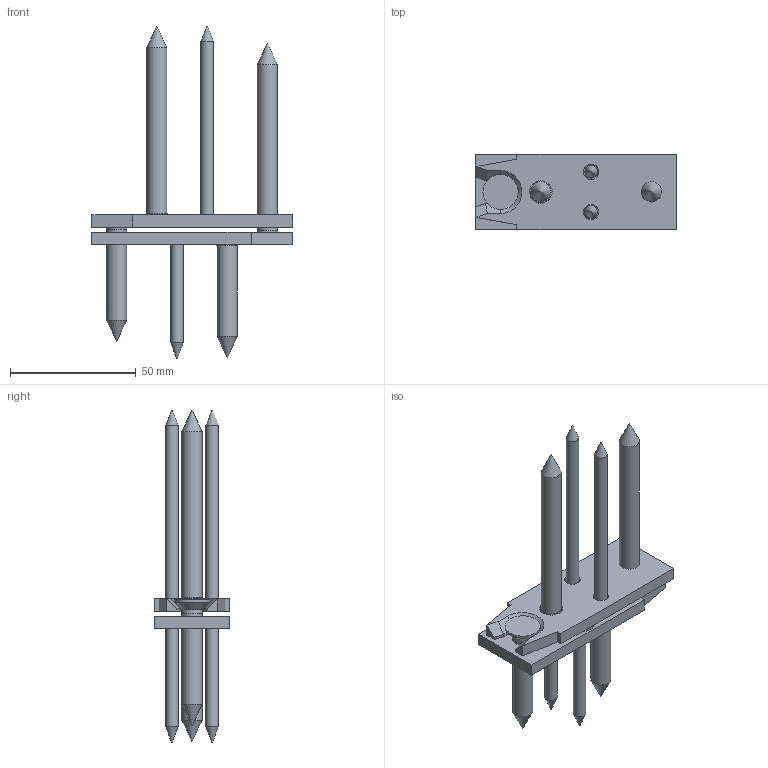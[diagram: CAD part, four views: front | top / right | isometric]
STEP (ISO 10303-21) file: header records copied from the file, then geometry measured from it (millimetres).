
FILE_DESCRIPTION(/* description */ ('Unknown'),/* implementation_level */ '2;1');
FILE_NAME(/* name */ 'RICON Edelstahl_80x30_EA',/* time_stamp */ '2022-02-07T15:51:52+01:00',/* author */ ('Unknown'),/* organization */ ('Unknown'),/* preprocessor_version */ 'ST-DEVELOPER v16.7',/* originating_system */ 'Solid Edge',/* authorisation */ 'Unknown');
FILE_SCHEMA (('AUTOMOTIVE_DESIGN {1 0 10303 214 3 1 1}'));
Length unit declared in the file: millimetre
Products named in the file (6): RICON_30x80_zusammenbau_mit Fase; RICON_30x80_mit Fase; SK_Schraube_5x50; SK_Schraube_8x50; SK_Schraube_5x80; SK_Schraube_8x80
Assembly tree (10 placements, depth 2):
  RICON_30x80_zusammenbau_mit Fase
    RICON_30x80_mit Fase  x2
    SK_Schraube_5x50  x2
    SK_Schraube_8x50  x2
    SK_Schraube_5x80  x2
    SK_Schraube_8x80  x2
Bounding box: 80 x 30 x 132 mm (x, y, z)
Volume: 36340.7 mm3; surface area: 22518 mm2
Topology: 10 solids, 10 shells, 116 faces, 248 edges, 156 vertices
Faces by surface type: plane 58, cylinder 34, cone 24
Full cylindrical faces by diameter (mm): 5 x4, 6 x4, 6.2 x4, 8 x6, 8.3 x4, 9.1 x2, 10 x2, 10.2 x2, 14 x4
Entity records: 1576 total; most frequent: DIRECTION 268, CARTESIAN_POINT 232, ORIENTED_EDGE 180, AXIS2_PLACEMENT_3D 109, FACE_BOUND 97, EDGE_LOOP 95, EDGE_CURVE 90, VERTEX_POINT 73
